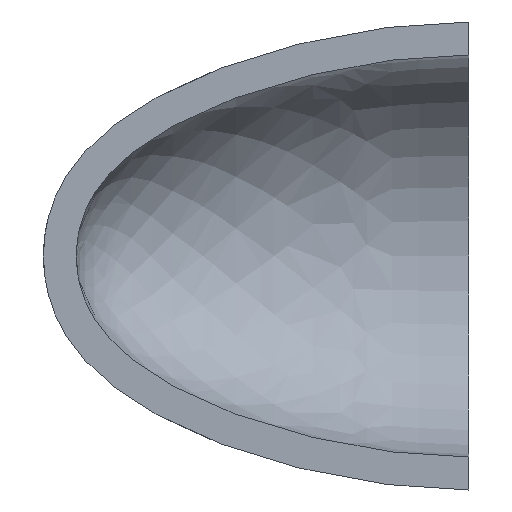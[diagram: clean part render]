
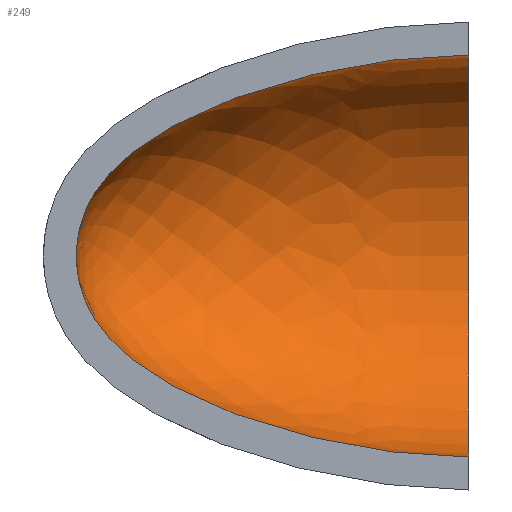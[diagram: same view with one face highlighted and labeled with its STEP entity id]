
A CAD part, left-side view. The second image highlights one B-rep face of the part: STEP entity #249.
In plain terms, the highlighted face is a revolution surface.
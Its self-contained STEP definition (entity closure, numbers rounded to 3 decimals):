
#100=CARTESIAN_POINT('Axis2P3D Location',(0.,0.,0.)) ;
#104=CARTESIAN_POINT('Vertex',(0.,0.,61.)) ;
#106=CARTESIAN_POINT('Vertex',(0.,0.,-61.)) ;
#132=CARTESIAN_POINT('Control Point',(0.,0.,-61.)) ;
#133=CARTESIAN_POINT('Control Point',(0.,2.125,-61.)) ;
#134=CARTESIAN_POINT('Control Point',(0.,4.273,-60.963)) ;
#135=CARTESIAN_POINT('Control Point',(0.,6.443,-60.889)) ;
#136=CARTESIAN_POINT('Control Point',(0.,12.187,-60.605)) ;
#137=CARTESIAN_POINT('Control Point',(0.,18.048,-60.085)) ;
#138=CARTESIAN_POINT('Control Point',(0.,21.712,-59.677)) ;
#139=CARTESIAN_POINT('Control Point',(0.,29.517,-58.639)) ;
#140=CARTESIAN_POINT('Control Point',(0.,37.397,-57.236)) ;
#141=CARTESIAN_POINT('Control Point',(0.,41.562,-56.398)) ;
#142=CARTESIAN_POINT('Control Point',(0.,49.437,-54.623)) ;
#143=CARTESIAN_POINT('Control Point',(0.,57.248,-52.487)) ;
#144=CARTESIAN_POINT('Control Point',(0.,60.909,-51.398)) ;
#145=CARTESIAN_POINT('Control Point',(0.,69.796,-48.522)) ;
#146=CARTESIAN_POINT('Control Point',(0.,78.396,-45.118)) ;
#147=CARTESIAN_POINT('Control Point',(0.,83.349,-42.904)) ;
#148=CARTESIAN_POINT('Control Point',(0.,90.284,-39.367)) ;
#149=CARTESIAN_POINT('Control Point',(0.,96.629,-35.347)) ;
#150=CARTESIAN_POINT('Control Point',(0.,98.556,-34.035)) ;
#151=CARTESIAN_POINT('Control Point',(0.,102.038,-31.476)) ;
#152=CARTESIAN_POINT('Control Point',(0.,105.215,-28.744)) ;
#153=CARTESIAN_POINT('Control Point',(0.,106.629,-27.427)) ;
#154=CARTESIAN_POINT('Control Point',(0.,109.189,-24.827)) ;
#155=CARTESIAN_POINT('Control Point',(0.,111.426,-22.097)) ;
#156=CARTESIAN_POINT('Control Point',(0.,112.419,-20.76)) ;
#157=CARTESIAN_POINT('Control Point',(0.,113.989,-18.405)) ;
#158=CARTESIAN_POINT('Control Point',(0.,115.304,-15.968)) ;
#159=CARTESIAN_POINT('Control Point',(0.,115.812,-14.928)) ;
#160=CARTESIAN_POINT('Control Point',(0.,116.879,-12.488)) ;
#161=CARTESIAN_POINT('Control Point',(0.,117.699,-9.962)) ;
#162=CARTESIAN_POINT('Control Point',(0.,118.084,-8.499)) ;
#163=CARTESIAN_POINT('Control Point',(0.,118.6,-5.963)) ;
#164=CARTESIAN_POINT('Control Point',(0.,118.884,-3.333)) ;
#165=CARTESIAN_POINT('Control Point',(0.,118.961,-2.238)) ;
#166=CARTESIAN_POINT('Control Point',(0.,119.,-1.127)) ;
#167=CARTESIAN_POINT('Control Point',(0.,119.,0.)) ;
#168=CARTESIAN_POINT('Vertex',(0.,119.,0.)) ;
#172=CARTESIAN_POINT('Control Point',(0.,0.,61.)) ;
#173=CARTESIAN_POINT('Control Point',(0.,2.125,61.)) ;
#174=CARTESIAN_POINT('Control Point',(0.,4.273,60.963)) ;
#175=CARTESIAN_POINT('Control Point',(0.,6.443,60.889)) ;
#176=CARTESIAN_POINT('Control Point',(0.,12.187,60.605)) ;
#177=CARTESIAN_POINT('Control Point',(0.,18.048,60.085)) ;
#178=CARTESIAN_POINT('Control Point',(0.,21.712,59.677)) ;
#179=CARTESIAN_POINT('Control Point',(0.,29.517,58.639)) ;
#180=CARTESIAN_POINT('Control Point',(0.,37.397,57.236)) ;
#181=CARTESIAN_POINT('Control Point',(0.,41.562,56.398)) ;
#182=CARTESIAN_POINT('Control Point',(0.,49.437,54.623)) ;
#183=CARTESIAN_POINT('Control Point',(0.,57.248,52.487)) ;
#184=CARTESIAN_POINT('Control Point',(0.,60.909,51.398)) ;
#185=CARTESIAN_POINT('Control Point',(0.,69.796,48.522)) ;
#186=CARTESIAN_POINT('Control Point',(0.,78.396,45.118)) ;
#187=CARTESIAN_POINT('Control Point',(0.,83.349,42.904)) ;
#188=CARTESIAN_POINT('Control Point',(0.,90.284,39.367)) ;
#189=CARTESIAN_POINT('Control Point',(0.,96.629,35.347)) ;
#190=CARTESIAN_POINT('Control Point',(0.,98.556,34.035)) ;
#191=CARTESIAN_POINT('Control Point',(0.,102.038,31.476)) ;
#192=CARTESIAN_POINT('Control Point',(0.,105.215,28.744)) ;
#193=CARTESIAN_POINT('Control Point',(0.,106.629,27.427)) ;
#194=CARTESIAN_POINT('Control Point',(0.,109.189,24.827)) ;
#195=CARTESIAN_POINT('Control Point',(0.,111.426,22.097)) ;
#196=CARTESIAN_POINT('Control Point',(0.,112.419,20.76)) ;
#197=CARTESIAN_POINT('Control Point',(0.,113.989,18.405)) ;
#198=CARTESIAN_POINT('Control Point',(0.,115.304,15.968)) ;
#199=CARTESIAN_POINT('Control Point',(0.,115.812,14.928)) ;
#200=CARTESIAN_POINT('Control Point',(0.,116.879,12.488)) ;
#201=CARTESIAN_POINT('Control Point',(0.,117.699,9.962)) ;
#202=CARTESIAN_POINT('Control Point',(0.,118.084,8.499)) ;
#203=CARTESIAN_POINT('Control Point',(0.,118.6,5.963)) ;
#204=CARTESIAN_POINT('Control Point',(0.,118.884,3.333)) ;
#205=CARTESIAN_POINT('Control Point',(0.,118.961,2.238)) ;
#206=CARTESIAN_POINT('Control Point',(0.,119.,1.127)) ;
#207=CARTESIAN_POINT('Control Point',(0.,119.,0.)) ;
#219=CARTESIAN_POINT('Control Point',(0.,0.,61.)) ;
#220=CARTESIAN_POINT('Control Point',(0.,6.907,61.)) ;
#221=CARTESIAN_POINT('Control Point',(0.,14.269,60.607)) ;
#222=CARTESIAN_POINT('Control Point',(0.,22.077,59.809)) ;
#223=CARTESIAN_POINT('Control Point',(0.,38.315,57.388)) ;
#224=CARTESIAN_POINT('Control Point',(0.,55.07,53.311)) ;
#225=CARTESIAN_POINT('Control Point',(0.,63.394,50.857)) ;
#226=CARTESIAN_POINT('Control Point',(0.,75.441,46.554)) ;
#227=CARTESIAN_POINT('Control Point',(0.,86.289,41.381)) ;
#228=CARTESIAN_POINT('Control Point',(0.,89.742,39.564)) ;
#229=CARTESIAN_POINT('Control Point',(0.,96.262,35.754)) ;
#230=CARTESIAN_POINT('Control Point',(0.,101.909,31.631)) ;
#231=CARTESIAN_POINT('Control Point',(0.,104.489,29.499)) ;
#232=CARTESIAN_POINT('Control Point',(0.,109.125,25.12)) ;
#233=CARTESIAN_POINT('Control Point',(0.,112.693,20.541)) ;
#234=CARTESIAN_POINT('Control Point',(0.,114.205,18.208)) ;
#235=CARTESIAN_POINT('Control Point',(0.,116.711,13.448)) ;
#236=CARTESIAN_POINT('Control Point',(0.,118.219,8.384)) ;
#237=CARTESIAN_POINT('Control Point',(0.,118.733,5.748)) ;
#238=CARTESIAN_POINT('Control Point',(0.,119.,2.961)) ;
#239=CARTESIAN_POINT('Control Point',(0.,119.,0.)) ;
#240=CARTESIAN_POINT('Axis1P Location',(0.,0.,0.)) ;
#101=DIRECTION('Axis2P3D Direction',(0.,1.,0.)) ;
#241=DIRECTION('Axis1P Direction',(0.,1.,0.)) ;
#102=AXIS2_PLACEMENT_3D('Circle Axis2P3D',#100,#101,$) ;
#245=ORIENTED_EDGE('',*,*,#108,.F.) ;
#246=ORIENTED_EDGE('',*,*,#208,.T.) ;
#247=ORIENTED_EDGE('',*,*,#170,.F.) ;
#249=ADVANCED_FACE('PartBody',(#248),#243,.F.) ;
#242=AXIS1_PLACEMENT('Revolution Surface Axis1P',#240,#241) ;
#131=B_SPLINE_CURVE_WITH_KNOTS('',5,(#132,#133,#134,#135,#136,#137,#138,#139,#140,#141,#142,#143,#144,#145,#146,#147,#148,#149,#150,#151,#152,#153,#154,#155,#156,#157,#158,#159,#160,#161,#162,#163,#164,#165,#166,#167),.UNSPECIFIED.,.F.,.U.,(6,3,3,3,3,3,3,3,3,3,3,6),(0.,15.531,40.765,68.926,94.079,130.552,147.256,161.969,175.514,185.344,198.254,207.242),.UNSPECIFIED.) ;
#171=B_SPLINE_CURVE_WITH_KNOTS('',5,(#172,#173,#174,#175,#176,#177,#178,#179,#180,#181,#182,#183,#184,#185,#186,#187,#188,#189,#190,#191,#192,#193,#194,#195,#196,#197,#198,#199,#200,#201,#202,#203,#204,#205,#206,#207),.UNSPECIFIED.,.F.,.U.,(6,3,3,3,3,3,3,3,3,3,3,6),(0.,15.531,40.765,68.926,94.079,130.552,147.256,161.969,175.514,185.344,198.254,207.242),.UNSPECIFIED.) ;
#218=B_SPLINE_CURVE_WITH_KNOTS('',5,(#219,#220,#221,#222,#223,#224,#225,#226,#227,#228,#229,#230,#231,#232,#233,#234,#235,#236,#237,#238,#239),.UNSPECIFIED.,.F.,.U.,(6,3,3,3,3,3,6),(0.,36.812,73.624,92.03,110.436,128.842,147.248),.UNSPECIFIED.) ;
#103=CIRCLE('generated circle',#102,61.) ;
#108=EDGE_CURVE('',#105,#107,#103,.T.) ;
#170=EDGE_CURVE('',#107,#169,#131,.T.) ;
#208=EDGE_CURVE('',#105,#169,#171,.T.) ;
#244=EDGE_LOOP('',(#245,#246,#247)) ;
#248=FACE_OUTER_BOUND('',#244,.T.) ;
#243=SURFACE_OF_REVOLUTION('Surface of Revolution',#218,#242) ;
#105=VERTEX_POINT('',#104) ;
#107=VERTEX_POINT('',#106) ;
#169=VERTEX_POINT('',#168) ;
